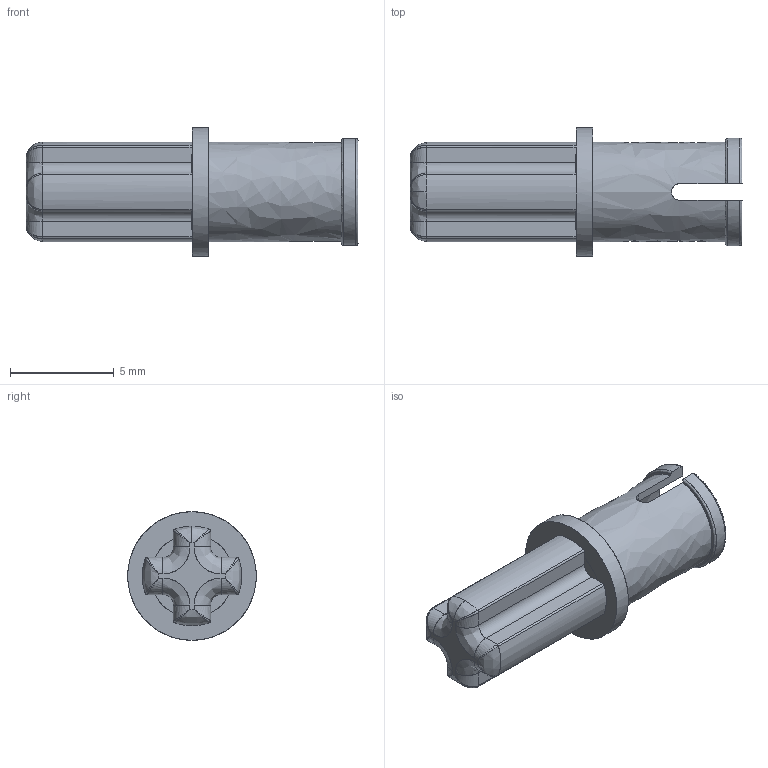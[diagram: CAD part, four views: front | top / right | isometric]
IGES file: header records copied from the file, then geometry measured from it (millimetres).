
Start section: C
Global section: file name: Blue_4206482_JCA.iges; native system: By Siemens PLM Incorporated; preprocessor: XPlus GENERIC/IGES 26.1.183; author: Author; organization: Title; date: 20250721.234952; units: millimetre
Bounding box: 16 x 6.2 x 6.2 mm (x, y, z)
Surface area: 405.6 mm2 (no closed solid volume)
Topology: 0 solids, 0 shells, 79 faces, 512 edges, 504 vertices
Faces by surface type: bspline 79
